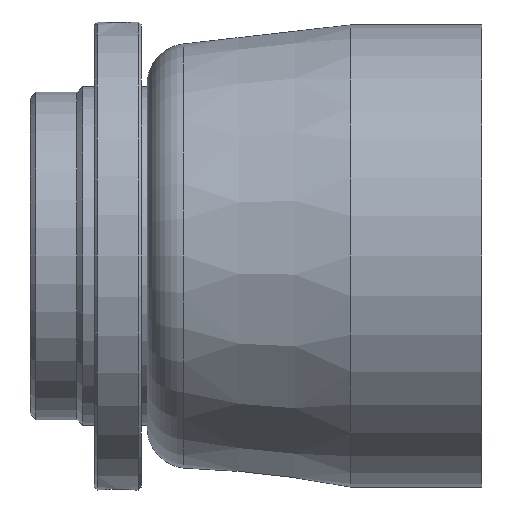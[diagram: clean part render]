
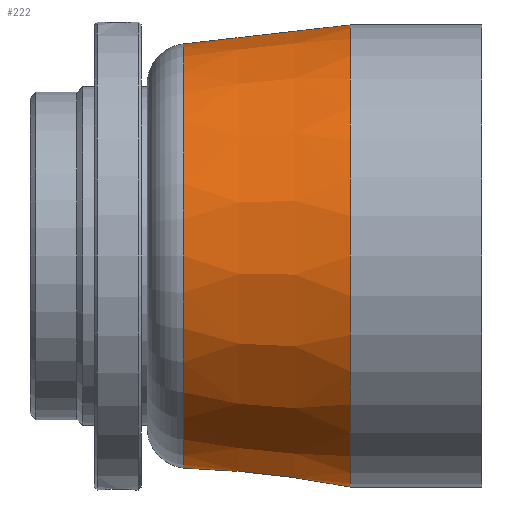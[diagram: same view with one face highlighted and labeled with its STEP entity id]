
A CAD part, left-side view. The second image highlights one B-rep face of the part: STEP entity #222.
In plain terms, the highlighted conical face has half-angle 6.5 degrees and reference radius 36.25 mm.
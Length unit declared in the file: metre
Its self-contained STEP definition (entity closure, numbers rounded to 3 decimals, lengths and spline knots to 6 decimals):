
#222=ADVANCED_FACE('',(#468,#469),#470,.T.);
#468=FACE_OUTER_BOUND('',#738,.T.);
#469=FACE_BOUND('',#739,.T.);
#470=CONICAL_SURFACE('',#740,0.03625,0.113);
#738=EDGE_LOOP('',(#1175));
#739=EDGE_LOOP('',(#1176));
#740=AXIS2_PLACEMENT_3D('',#1177,#1178,#1179);
#1175=ORIENTED_EDGE('',*,*,#1429,.T.);
#1176=ORIENTED_EDGE('',*,*,#1427,.F.);
#1177=CARTESIAN_POINT('',(-0.012104,0.06852,0.0));
#1178=DIRECTION('',(0.0,-1.0,-0.0));
#1179=DIRECTION('',(0.0,0.0,-1.0));
#1427=EDGE_CURVE('',#1672,#1672,#1673,.T.);
#1429=EDGE_CURVE('',#1675,#1675,#1676,.T.);
#1672=VERTEX_POINT('',#2110);
#1673=CIRCLE('',#2111,0.03625);
#1675=VERTEX_POINT('',#2113);
#1676=CIRCLE('',#2114,0.039499);
#2110=CARTESIAN_POINT('',(-0.012104,0.06852,0.03625));
#2111=AXIS2_PLACEMENT_3D('',#2409,#2410,#2411);
#2113=CARTESIAN_POINT('',(-0.012104,0.040011,0.039499));
#2114=AXIS2_PLACEMENT_3D('',#2412,#2413,#2414);
#2409=CARTESIAN_POINT('',(-0.012104,0.06852,0.0));
#2410=DIRECTION('',(0.0,1.0,0.0));
#2411=DIRECTION('',(0.0,0.0,1.0));
#2412=CARTESIAN_POINT('',(-0.012104,0.040011,0.0));
#2413=DIRECTION('',(0.0,1.0,0.0));
#2414=DIRECTION('',(0.0,0.0,1.0));
